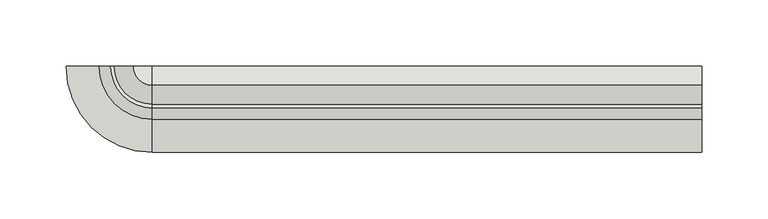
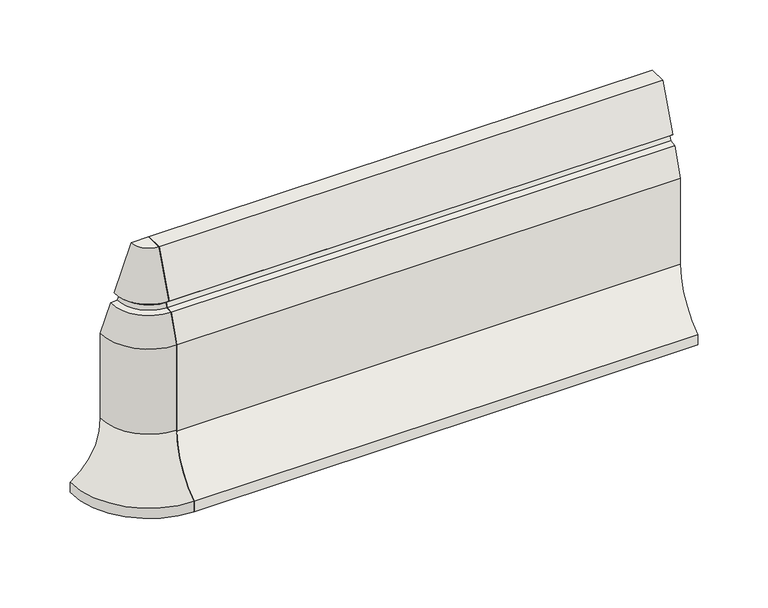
"""IFC4 building model written with IfcOpenShell, lengths in millimetres: wall geometry, GM_PC_UN_ACO kerb PB outside corner_ACO : PB H200 standard."""

from ifc_helpers import new_model, si_unit, point, frame, frame_2d, origin, place, context, project, spatial, polyline, circle_curve, ellipse_curve, trimmed, segment, composite_curve, outline, extrude, source, transform, mapped, element, save
from ifc_brep_helpers import plane_surface, cylinder_surface, revolved_surface, advanced_brep


def wall_1ed60814(model_context):
    return source(origin(), model_context, "Body", "SolidModel", [
        extrude(outline(composite_curve([segment(polyline([(-40.0039527, 130.0277035), (-31.5963262, 153.428955), (-26.03433, 154.0469313), (-24.6373807, 157.7298564), (-28.690316, 161.1592348), (-14.5292951, 200.0197419), (0.0, 200.0197419), (0.0, 0.0), (-65.0223078, 0.0), (-65.0223078, 8.9062534)]), True, "CONTINUOUS"), segment(trimmed(circle_curve(frame_2d((-94.2239515, 54.592465)), 54.2214526), [point((-65.0223078, 8.9062534))], [point((-40.0039527, 54.9895287))], True, "CARTESIAN"), True, "CONTINUOUS"), segment(polyline([(-40.0039527, 54.9895287), (-40.0039527, 130.0277035)]), True, "CONTINUOUS")], self_intersect=False)), frame((0.0, 0.0, 0.0), z_axis=(1.0, 0.0, 0.0), x_axis=(0.0, 1.0, 0.0)), (0.0, 0.0, 1.0), 415.0),
        advanced_brep(
        [(-40.0039527, 0.0, 130.0079616), (-31.5963262, 0.0, 153.4092131), (-26.03433, 0.0, 154.0271894), (-24.6373807, 0.0, 157.7101145), (-28.690316, 0.0, 161.1394929), (-14.5292951, 0.0, 200.0), (0.0, 0.0, 200.0), (0.0, 0.0, 0.0), (-65.0, 0.0, 0.0), (-65.0, 0.0, 8.9062534), (-40.0039527, 0.0, 55.8011862), (0.0, -40.0039527, 130.0079616), (0.0, -40.0039527, 55.8011862), (0.0, -65.0, 8.9062534), (0.0, -65.0, 0.0), (0.0, -14.5292951, 200.0), (0.0, -28.690316, 161.1394929), (0.0, -24.6373807, 157.7101145), (0.0, -26.03433, 154.0271894), (0.0, -31.5963262, 153.4092131)],
        [
            (0, 1),
            (1, 2),
            (2, 3),
            (3, 4),
            (4, 5),
            (5, 6),
            (6, 7),
            (7, 8),
            (8, 9),
            (9, 10, circle_curve(frame((-94.2239515, 0.0, 54.592465), z_axis=(0.0, -1.0000000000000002, 0.0), x_axis=(-1.0000000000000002, 0.0, 0.0)), 54.2334701)),
            (10, 0),
            (11, 12),
            (12, 13, circle_curve(frame((0.0, -94.2239515, 54.592465), z_axis=(-1.0000000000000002, 0.0, 0.0), x_axis=(0.0, -1.0000000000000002, 0.0)), 54.2334701)),
            (13, 14),
            (14, 7),
            (6, 15),
            (15, 16),
            (16, 17),
            (17, 18),
            (18, 19),
            (19, 11),
            (19, 1, circle_curve(frame((0.0, 0.0, 153.4092131), z_axis=(0.0, 0.0, -1.0), x_axis=(-1.0000000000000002, 0.0, 0.0)), 31.5963262)),
            (0, 11, circle_curve(frame((0.0, 0.0, 130.0079616), z_axis=(0.0, 0.0, 1.0), x_axis=(-1.0000000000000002, 0.0, 0.0)), 40.0039527)),
            (18, 2, circle_curve(frame((0.0, 0.0, 154.0271894), z_axis=(0.0, 0.0, -1.0), x_axis=(-1.0000000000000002, 0.0, 0.0)), 26.03433)),
            (17, 3, circle_curve(frame((0.0, 0.0, 157.7101145), z_axis=(0.0, 0.0, -1.0), x_axis=(-1.0000000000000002, 0.0, 0.0)), 24.6373807)),
            (16, 4, circle_curve(frame((0.0, 0.0, 161.1394929), z_axis=(0.0, 0.0, -1.0), x_axis=(-1.0000000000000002, 0.0, 0.0)), 28.690316)),
            (15, 5, circle_curve(frame((0.0, 0.0, 200.0), z_axis=(0.0, 0.0, -1.0), x_axis=(-1.0000000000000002, 0.0, 0.0)), 14.5292951)),
            (14, 8, circle_curve(frame((0.0, 0.0, 0.0), z_axis=(0.0, 0.0, -1.0), x_axis=(-1.0000000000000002, 0.0, 0.0)), 65.0)),
            (13, 9, circle_curve(frame((0.0, 0.0, 8.9062534), z_axis=(0.0, 0.0, -1.0), x_axis=(-1.0000000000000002, 0.0, 0.0)), 65.0)),
            (12, 10, circle_curve(frame((0.0, 0.0, 55.8011862), z_axis=(0.0, 0.0, -1.0), x_axis=(-1.0000000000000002, 0.0, 0.0)), 40.0039527)),
        ],
        [
            plane_surface(frame((0.0, 0.0, 434.9802581), z_axis=(0.0, 1.0, 0.0), x_axis=(-1.0, 0.0, 0.0))),
            plane_surface(frame((0.0, 0.0, 434.9802581), z_axis=(1.0, 0.0, 0.0), x_axis=(0.0, -1.0, 0.0))),
            revolved_surface(polyline([(-40.0039527, 0.0, 130.0079616), (-31.5963262, 0.0, 153.4092131)]), (0.0, 0.0, 434.9802581), (0.0, 0.0, 1.0)),
            revolved_surface(polyline([(-31.5963262, 0.0, 153.4092131), (-26.03433, 0.0, 154.0271894)]), (0.0, 0.0, 434.9802581), (0.0, 0.0, 1.0)),
            revolved_surface(polyline([(-26.03433, 0.0, 154.0271894), (-24.6373807, 0.0, 157.7101145)]), (0.0, 0.0, 434.9802581), (0.0, 0.0, 1.0)),
            revolved_surface(polyline([(-24.6373807, 0.0, 157.7101145), (-28.690316, 0.0, 161.1394929)]), (0.0, 0.0, 434.9802581), (0.0, 0.0, 1.0)),
            revolved_surface(polyline([(-28.690316, 0.0, 161.1394929), (-14.5292951, 0.0, 200.0)]), (0.0, 0.0, 434.9802581), (0.0, 0.0, 1.0)),
            plane_surface(frame((0.0, 0.0, 200.0), z_axis=(0.0, 0.0, 1.0), x_axis=(-1.0, 0.0, 0.0))),
            plane_surface(frame((0.0, 0.0, 0.0), z_axis=(0.0, 0.0, -1.0), x_axis=(-1.0, 0.0, 0.0))),
            cylinder_surface(frame((0.0, 0.0, 434.9802581), z_axis=(0.0, 0.0, 1.0), x_axis=(-1.0000000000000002, 0.0, 0.0)), 65.0),
            revolved_surface(trimmed(ellipse_curve(frame((-94.2239515, 0.0, 54.592465), z_axis=(0.0, -1.0000000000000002, 0.0), x_axis=(-1.0000000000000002, 0.0, 0.0)), 54.2334701, 54.2334701), [point((-65.0, 0.0, 8.9062534))], [point((-40.0039527, 0.0, 55.8011862))], True, "CARTESIAN"), (0.0, 0.0, 434.9802581), (0.0, 0.0, 1.0)),
            cylinder_surface(frame((0.0, 0.0, 434.9802581), z_axis=(0.0, 0.0, 1.0), x_axis=(-1.0000000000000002, 0.0, 0.0)), 40.0039527),
        ],
        [
            (0, [[1, 2, 3, 4, 5, 6, 7, 8, 9, 10, 11]]),
            (1, [[12, 13, 14, 15, -7, 16, 17, 18, 19, 20, 21]]),
            (2, [[22, -1, 23, -21]]),
            (3, [[24, -2, -22, -20]]),
            (4, [[25, -3, -24, -19]]),
            (5, [[26, -4, -25, -18]]),
            (6, [[27, -5, -26, -17]]),
            (7, [[-6, -27, -16]]),
            (8, [[28, -8, -15]]),
            (9, [[29, -9, -28, -14]]),
            (10, [[30, -10, -29, -13]]),
            (11, [[-23, -11, -30, -12]]),
        ],
    ),
    ])


if __name__ == "__main__":
    model = new_model("IFC4")
    model_context = context("Model", 3, world=origin())
    ifc_project = project(units=[si_unit("LENGTHUNIT", "METRE", prefix="MILLI")], contexts=[model_context])
    site = spatial("IfcSite", under=ifc_project)
    building = spatial("IfcBuilding", under=site)
    placement = place(None, origin())
    wall_shape = wall_1ed60814(model_context)
    element("IfcWall", 1, ObjectType="GM_PC_UN_ACO kerb PB outside corner_ACO : PB H200 standard", at=placement, inside=building, context=model_context, shape_type="MappedRepresentation", body=[
        mapped(wall_shape, transform((0.0, 0.0, 0.0), x_axis=(1.0, 0.0, 0.0), y_axis=(0.0, 1.0, 0.0), z_axis=(0.0, 0.0, 1.0))),
    ])
    save(model, "model.ifc")
